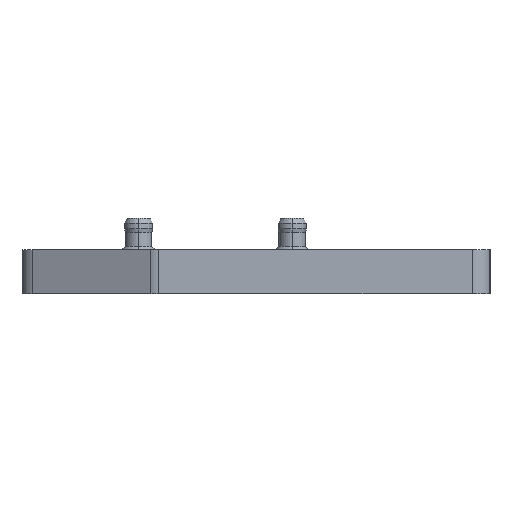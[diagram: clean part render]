
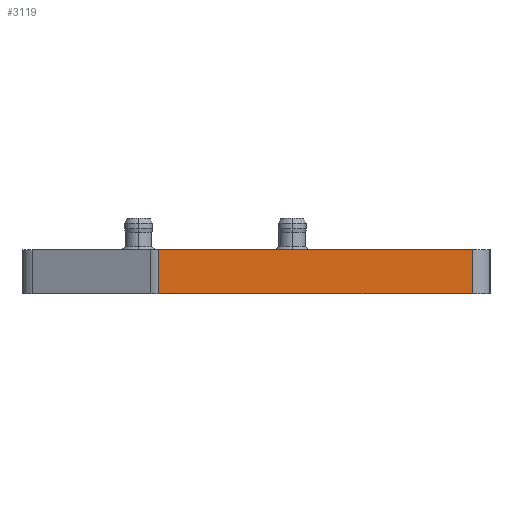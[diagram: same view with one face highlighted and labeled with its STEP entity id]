
A CAD part, left-side view. The second image highlights one B-rep face of the part: STEP entity #3119.
In plain terms, the highlighted planar face has unit normal (-1, 0, 0).
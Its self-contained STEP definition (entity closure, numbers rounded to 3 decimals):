
#68 = LINE ( 'NONE', #401, #840 ) ;
#73 = EDGE_CURVE ( 'NONE', #492, #1261, #3365, .T. ) ;
#106 = FACE_OUTER_BOUND ( 'NONE', #4426, .T. ) ;
#181 = CARTESIAN_POINT ( 'NONE',  ( -32.1, 18.778, 0. ) ) ;
#401 = CARTESIAN_POINT ( 'NONE',  ( -32.1, 19., 0. ) ) ;
#429 = EDGE_CURVE ( 'NONE', #1261, #2050, #68, .T. ) ;
#492 = VERTEX_POINT ( 'NONE', #3902 ) ;
#699 = DIRECTION ( 'NONE',  ( 0., 0., -1. ) ) ;
#840 = VECTOR ( 'NONE', #3856, 1000. ) ;
#882 = LINE ( 'NONE', #4095, #4179 ) ;
#1080 = CARTESIAN_POINT ( 'NONE',  ( -32.1, 19., 2.5 ) ) ;
#1261 = VERTEX_POINT ( 'NONE', #181 ) ;
#1353 = CARTESIAN_POINT ( 'NONE',  ( -32.1, 1., 0. ) ) ;
#1388 = DIRECTION ( 'NONE',  ( 0., 0., -1. ) ) ;
#1817 = DIRECTION ( 'NONE',  ( 0., 0., 1. ) ) ;
#1921 = VECTOR ( 'NONE', #1817, 1000. ) ;
#2050 = VERTEX_POINT ( 'NONE', #1353 ) ;
#2184 = ORIENTED_EDGE ( 'NONE', *, *, #429, .T. ) ;
#2192 = AXIS2_PLACEMENT_3D ( 'NONE', #1080, #4870, #699 ) ;
#2239 = EDGE_CURVE ( 'NONE', #492, #2943, #882, .T. ) ;
#2355 = VECTOR ( 'NONE', #1388, 1000. ) ;
#2814 = ORIENTED_EDGE ( 'NONE', *, *, #2239, .F. ) ;
#2840 = CARTESIAN_POINT ( 'NONE',  ( -32.1, 1., 2.5 ) ) ;
#2943 = VERTEX_POINT ( 'NONE', #2840 ) ;
#2970 = PLANE ( 'NONE',  #2192 ) ;
#3119 = ADVANCED_FACE ( 'NONE', ( #106 ), #2970, .F. ) ;
#3145 = EDGE_CURVE ( 'NONE', #2050, #2943, #4176, .T. ) ;
#3365 = LINE ( 'NONE', #3661, #2355 ) ;
#3661 = CARTESIAN_POINT ( 'NONE',  ( -32.1, 18.778, 2.5 ) ) ;
#3856 = DIRECTION ( 'NONE',  ( 0., -1., 0. ) ) ;
#3902 = CARTESIAN_POINT ( 'NONE',  ( -32.1, 18.778, 2.5 ) ) ;
#4019 = ORIENTED_EDGE ( 'NONE', *, *, #3145, .T. ) ;
#4095 = CARTESIAN_POINT ( 'NONE',  ( -32.1, 19., 2.5 ) ) ;
#4176 = LINE ( 'NONE', #4504, #1921 ) ;
#4179 = VECTOR ( 'NONE', #4402, 1000. ) ;
#4296 = ORIENTED_EDGE ( 'NONE', *, *, #73, .T. ) ;
#4402 = DIRECTION ( 'NONE',  ( 0., -1., 0. ) ) ;
#4426 = EDGE_LOOP ( 'NONE', ( #2184, #4019, #2814, #4296 ) ) ;
#4504 = CARTESIAN_POINT ( 'NONE',  ( -32.1, 1., 2.5 ) ) ;
#4870 = DIRECTION ( 'NONE',  ( 1., 0., 0. ) ) ;
